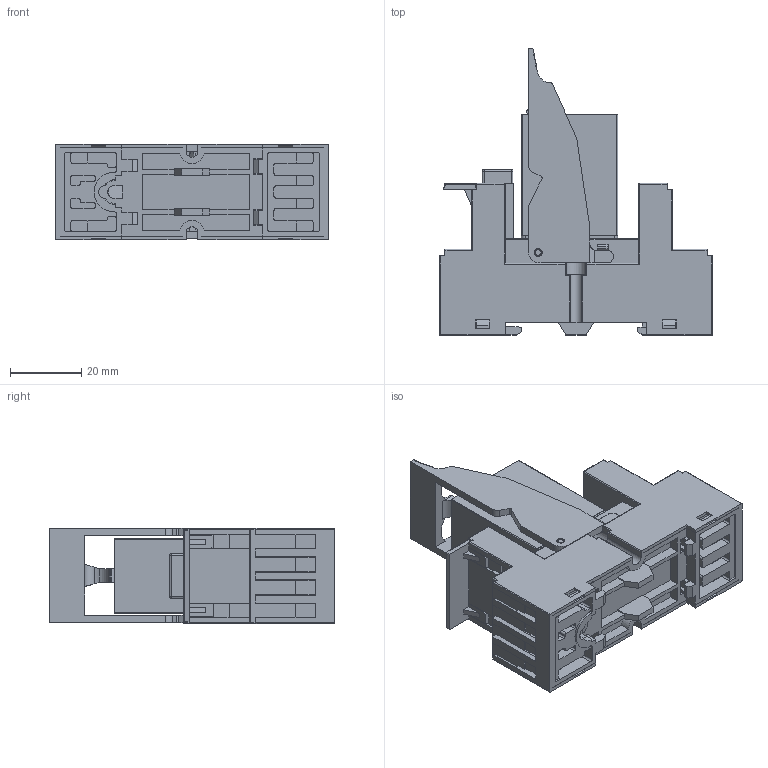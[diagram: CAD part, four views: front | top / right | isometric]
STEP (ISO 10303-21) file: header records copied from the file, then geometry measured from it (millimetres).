
FILE_DESCRIPTION (( 'STEP AP214' ), '1' );
FILE_NAME ('11. IR-4CO_IR-B4-SC-1_IR-RB-2_IR-MP-2_IR-FM.STEP', '2023-06-08T05:51:48', ( '' ), ( '' ), 'SwSTEP 2.0', 'SolidWorks 2022', '' );
FILE_SCHEMA (( 'AUTOMOTIVE_DESIGN' ));
Length unit declared in the file: millimetre
Products named in the file (6): IR-MP-2 (DKC); IR-B4-SC-1; 11. IR-4CO_IR-B4-SC-1_IR-RB-2_IR-MP-2_IR-FM; IR-4CO; IR-RB-2 (DKC); IR-FM
Assembly tree (5 placements, depth 2):
  11. IR-4CO_IR-B4-SC-1_IR-RB-2_IR-MP-2_IR-FM
    IR-B4-SC-1
    IR-4CO
    IR-RB-2 (DKC)
    IR-MP-2 (DKC)
    IR-FM
Bounding box: 76.4 x 80.2 x 26.8 mm (x, y, z)
Volume: 73200.1 mm3; surface area: 32612.7 mm2
Topology: 8 solids, 8 shells, 2556 faces, 7077 edges, 4588 vertices
Faces by surface type: plane 1697, cylinder 475, bspline 317, cone 67
Entity records: 95421 total; most frequent: CARTESIAN_POINT 29742, ORIENTED_EDGE 14028, DIRECTION 11668, EDGE_CURVE 7014, LINE 4952, VECTOR 4952, VERTEX_POINT 4588, AXIS2_PLACEMENT_3D 3358
